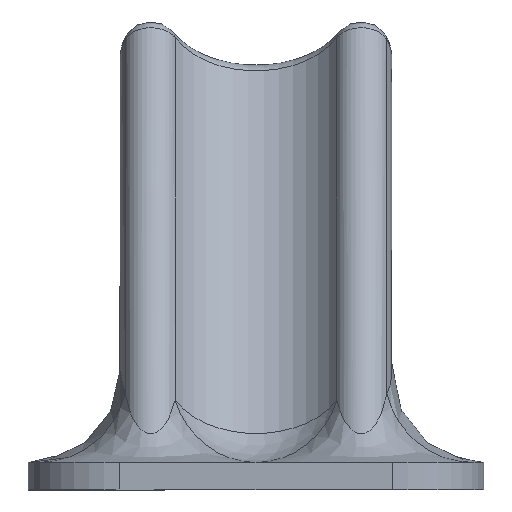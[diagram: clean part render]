
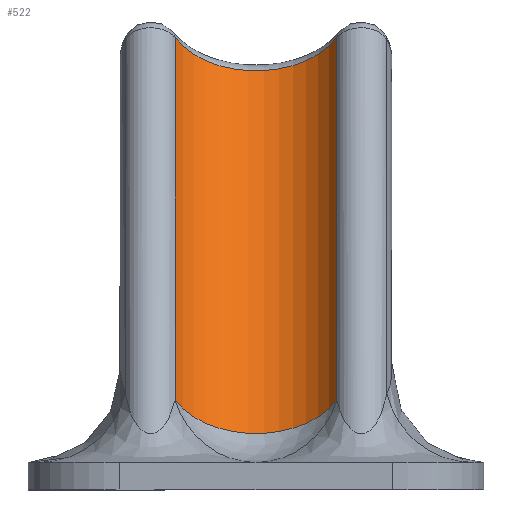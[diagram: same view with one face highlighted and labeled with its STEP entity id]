
A CAD part, front view. The second image highlights one B-rep face of the part: STEP entity #522.
In plain terms, the highlighted cylindrical face has radius 10 mm (diameter 20 mm), a partial arc.
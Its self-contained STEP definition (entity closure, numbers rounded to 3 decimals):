
#62=LINE('',#938,#86);
#63=LINE('',#942,#87);
#86=VECTOR('',#739,54.251);
#87=VECTOR('',#744,54.251);
#101=CYLINDRICAL_SURFACE('',#593,10.);
#133=FACE_OUTER_BOUND('',#173,.T.);
#173=EDGE_LOOP('',(#428,#429,#430,#431));
#205=CIRCLE('',#569,10.);
#222=CIRCLE('',#594,10.);
#256=VERTEX_POINT('',#868);
#257=VERTEX_POINT('',#870);
#269=VERTEX_POINT('',#937);
#270=VERTEX_POINT('',#941);
#308=EDGE_CURVE('',#256,#257,#205,.T.);
#328=EDGE_CURVE('',#257,#269,#62,.T.);
#330=EDGE_CURVE('',#270,#256,#63,.T.);
#331=EDGE_CURVE('',#269,#270,#222,.T.);
#428=ORIENTED_EDGE('',*,*,#308,.F.);
#429=ORIENTED_EDGE('',*,*,#330,.F.);
#430=ORIENTED_EDGE('',*,*,#331,.F.);
#431=ORIENTED_EDGE('',*,*,#328,.F.);
#522=ADVANCED_FACE('',(#133),#101,.F.);
#569=AXIS2_PLACEMENT_3D('',#871,#691,#692);
#593=AXIS2_PLACEMENT_3D('',#940,#742,#743);
#594=AXIS2_PLACEMENT_3D('',#943,#745,#746);
#691=DIRECTION('center_axis',(0.,-0.686,-0.727));
#692=DIRECTION('ref_axis',(0.,0.727,-0.686));
#739=DIRECTION('',(0.,-0.686,-0.727));
#742=DIRECTION('center_axis',(0.,-0.686,-0.727));
#743=DIRECTION('ref_axis',(0.998,0.048,-0.045));
#744=DIRECTION('',(0.,0.686,0.727));
#745=DIRECTION('center_axis',(0.,0.686,0.727));
#746=DIRECTION('ref_axis',(0.998,0.048,-0.045));
#868=CARTESIAN_POINT('',(-58.807,63.112,39.208));
#870=CARTESIAN_POINT('',(-41.193,63.112,39.208));
#871=CARTESIAN_POINT('Origin',(-50.,59.667,42.459));
#937=CARTESIAN_POINT('',(-41.193,25.881,-0.251));
#938=CARTESIAN_POINT('',(-41.193,16.445,-10.251));
#940=CARTESIAN_POINT('Origin',(-50.,61.04,43.914));
#941=CARTESIAN_POINT('',(-58.807,25.881,-0.251));
#942=CARTESIAN_POINT('',(-58.807,16.445,-10.251));
#943=CARTESIAN_POINT('Origin',(-50.,22.436,3.));
